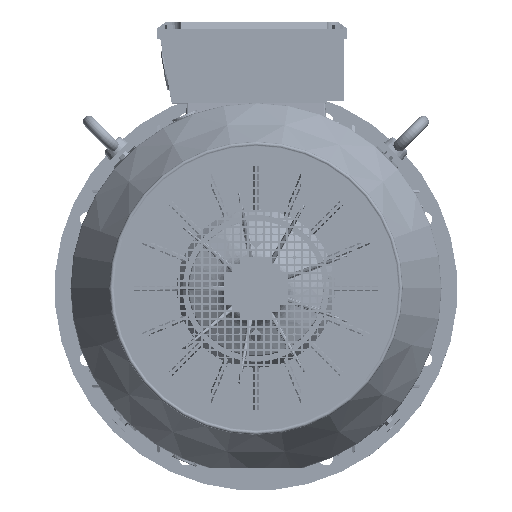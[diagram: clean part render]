
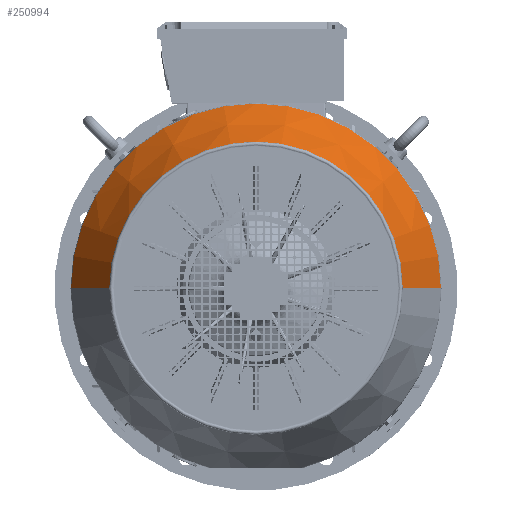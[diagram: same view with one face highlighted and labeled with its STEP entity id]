
A CAD part, top view. The second image highlights one B-rep face of the part: STEP entity #250994.
In plain terms, the highlighted conical face has half-angle 28.793 degrees and reference radius 200.371 mm.
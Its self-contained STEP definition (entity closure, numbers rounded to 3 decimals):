
#108376 = FACE_OUTER_BOUND ( 'NONE', #250999, .T. ) ;
#108478 = DIRECTION ( 'NONE',  ( 1., 0., 0. ) ) ;
#108480 = DIRECTION ( 'NONE',  ( 0., 0., 1. ) ) ;
#108482 = CARTESIAN_POINT ( 'NONE',  ( 0., 0., -208.325 ) ) ;
#108484 = AXIS2_PLACEMENT_3D ( 'NONE', #108482, #108480, #108478 ) ;
#108486 = CIRCLE ( 'NONE', #108484, 200.371 ) ;
#108509 = DIRECTION ( 'NONE',  ( 1., 0., 0. ) ) ;
#108511 = DIRECTION ( 'NONE',  ( 0., 0., 1. ) ) ;
#108512 = CARTESIAN_POINT ( 'NONE',  ( 0., 0., -208.325 ) ) ;
#108514 = AXIS2_PLACEMENT_3D ( 'NONE', #108512, #108511, #108509 ) ;
#108520 = CONICAL_SURFACE ( 'NONE', #108514, 200.371, 0.503 ) ;
#108537 = CARTESIAN_POINT ( 'NONE',  ( 252.335, 0., -113.775 ) ) ;
#108538 = DIRECTION ( 'NONE',  ( 1., 0., 0. ) ) ;
#108540 = DIRECTION ( 'NONE',  ( 0., 0., 1. ) ) ;
#108542 = CARTESIAN_POINT ( 'NONE',  ( 0., 0., -113.775 ) ) ;
#108544 = AXIS2_PLACEMENT_3D ( 'NONE', #108542, #108540, #108538 ) ;
#108560 = CIRCLE ( 'NONE', #108544, 252.335 ) ;
#108667 = DIRECTION ( 'NONE',  ( 0.482, 0., 0.876 ) ) ;
#108669 = VECTOR ( 'NONE', #108667, 1000. ) ;
#108671 = CARTESIAN_POINT ( 'NONE',  ( 200.371, 0., -208.325 ) ) ;
#108672 = LINE ( 'NONE', #108671, #108669 ) ;
#108747 = CARTESIAN_POINT ( 'NONE',  ( 200.371, 0., -208.325 ) ) ;
#108749 = CARTESIAN_POINT ( 'NONE',  ( -200.371, 0., -208.325 ) ) ;
#108893 = CARTESIAN_POINT ( 'NONE',  ( -252.335, 0., -113.775 ) ) ;
#108896 = DIRECTION ( 'NONE',  ( -0.482, 0., 0.876 ) ) ;
#108897 = VECTOR ( 'NONE', #108896, 1000. ) ;
#108900 = CARTESIAN_POINT ( 'NONE',  ( -200.371, 0., -208.325 ) ) ;
#108901 = LINE ( 'NONE', #108900, #108897 ) ;
#250994 = ADVANCED_FACE ( 'NONE', ( #108376 ), #108520, .T. ) ;
#250999 = EDGE_LOOP ( 'NONE', ( #251007, #251230, #251045, #251064 ) ) ;
#251007 = ORIENTED_EDGE ( 'NONE', *, *, #251009, .T. ) ;
#251009 = EDGE_CURVE ( 'NONE', #251142, #251138, #108486, .T. ) ;
#251045 = ORIENTED_EDGE ( 'NONE', *, *, #251055, .F. ) ;
#251055 = EDGE_CURVE ( 'NONE', #251060, #251237, #108560, .T. ) ;
#251060 = VERTEX_POINT ( 'NONE', #108537 ) ;
#251064 = ORIENTED_EDGE ( 'NONE', *, *, #251070, .F. ) ;
#251070 = EDGE_CURVE ( 'NONE', #251142, #251060, #108672, .T. ) ;
#251138 = VERTEX_POINT ( 'NONE', #108749 ) ;
#251142 = VERTEX_POINT ( 'NONE', #108747 ) ;
#251230 = ORIENTED_EDGE ( 'NONE', *, *, #251235, .T. ) ;
#251235 = EDGE_CURVE ( 'NONE', #251138, #251237, #108901, .T. ) ;
#251237 = VERTEX_POINT ( 'NONE', #108893 ) ;
